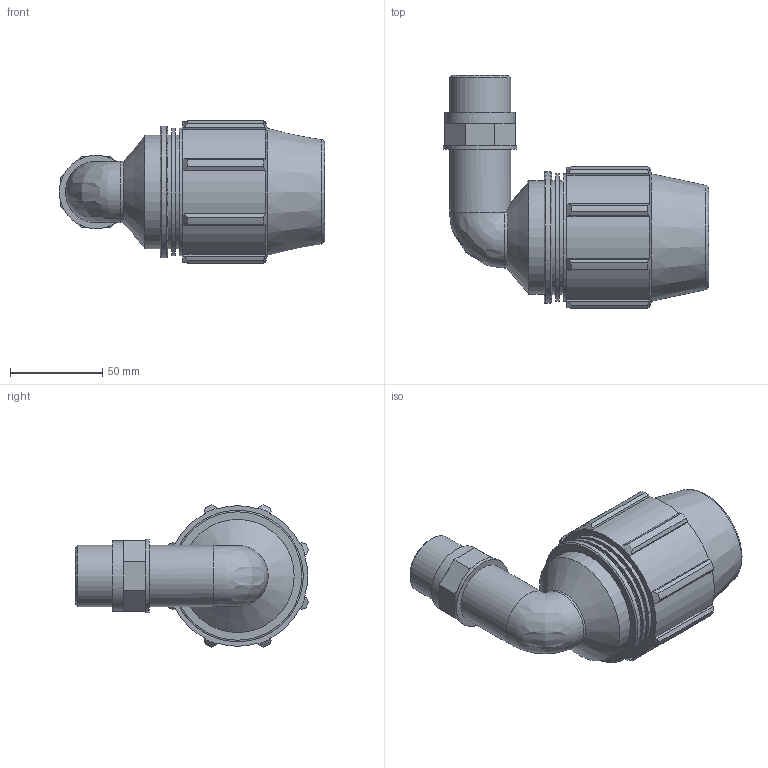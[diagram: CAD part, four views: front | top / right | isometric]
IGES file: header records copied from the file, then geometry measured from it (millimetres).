
Global section: file name: 077700040010_187700040010_0777060400100A.ipt; native system: Autodesk Inventor 2015; preprocessor: unknown; author: KIM; date: 20170622.103102; units: millimetre
Bounding box: 143.95 x 126.58 x 77.16 mm (x, y, z)
Volume: 332859.5 mm3; surface area: 64883.5 mm2
Topology: 1 solids, 1 shells, 125 faces, 320 edges, 205 vertices
Faces by surface type: plane 76, cylinder 27, cone 12, revolution 9, bspline 1
Full cylindrical faces by diameter (mm): 33.249 x2, 38.236 x1, 39.899 x1, 61.5 x3, 69.2 x2, 71.34 x1
